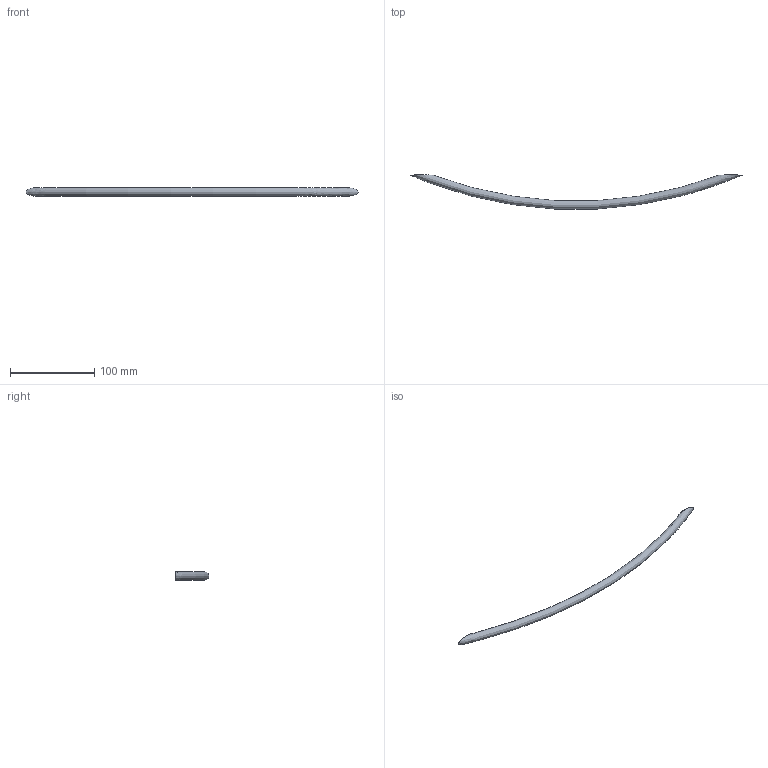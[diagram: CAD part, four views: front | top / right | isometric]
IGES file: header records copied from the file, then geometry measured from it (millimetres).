
Start section: Data from Parasolid IGES Translator 15.0.47, Copyright(c) 2006 Siemens P LM Software. All Rights Reserved.
Global section: file name:  9070494.igs; native system:  By UGS Corp.; preprocessor: XPlus GENERIC/IGES 3.0; author: Noname; organization: Noname; date: 20140122.155228; units: millimetre
Bounding box: 394 x 40.34 x 10 mm (x, y, z)
Surface area: 12415.6 mm2 (no closed solid volume)
Topology: 0 solids, 0 shells, 7 faces, 18 edges, 14 vertices
Faces by surface type: extrusion 4, revolution 3
